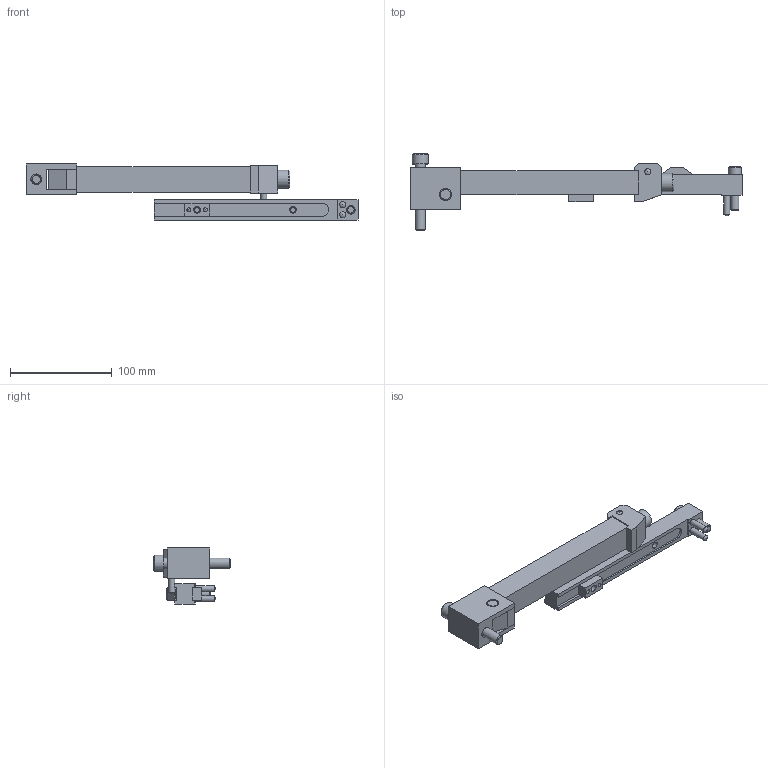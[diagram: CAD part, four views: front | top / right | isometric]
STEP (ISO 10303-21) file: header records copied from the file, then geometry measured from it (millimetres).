
FILE_DESCRIPTION( ( 'STEP AP214' ), '1' );
FILE_NAME( 'p:/temp/worker_4/temp/exporttempdir_3264_257_t73bB/format_0/BOX200FIX.stp', '2021-02-11T19:30:41', ( 'License CC BY-ND 4.0' ), ( 'CADENAS' ), ' ', 'PARTsolutions', ' ' );
FILE_SCHEMA( ( 'AUTOMOTIVE_DESIGN { 1 0 10303 214 1 1 1 1 }' ) );
Length unit declared in the file: millimetre
Products named in the file (17): BOX200FIX; _ZH90/2_head; _ZH90/2_screw1; _ZH90/2_hand; _ZH90/2_screw2; _ZH90/2_he; _ZH90/2_screw3; _ZH90/2_stift1; _ZH90/2_stift2; _ZH90/03_body; _M8-5; _ST2; _ZH90/03_foot3; _M6-3; _M6-4; _ZH90/03_foot4; _ST1
Assembly tree (18 placements, depth 2):
  BOX200FIX
    _ZH90/2_head
    _ZH90/2_screw1
    _ZH90/2_hand
    _ZH90/2_screw2
    _ZH90/2_he
    _ZH90/2_screw3
    _ZH90/2_stift1
    _ZH90/2_stift2
    _ZH90/03_body
    _M8-5
    _ST2  x2
    _ZH90/03_foot3
    _M6-3
    _M6-4
    _ZH90/03_foot4
    _ST1  x2
Bounding box: 326 x 75 x 55 mm (x, y, z)
Volume: 258027.3 mm3; surface area: 79217.7 mm2
Topology: 18 solids, 18 shells, 195 faces, 460 edges, 301 vertices
Faces by surface type: plane 128, cylinder 39, cone 18, sphere 10
Full cylindrical faces by diameter (mm): 4 x6, 4.134 x1, 5 x1, 6 x8, 6.6 x4, 8 x1, 8.4 x1, 10 x2, 10.106 x1, 10.5 x1, 11 x2, 12 x5, 13 x2, 16 x1, 18 x1
Entity records: 6862 total; most frequent: CARTESIAN_POINT 916, DIRECTION 872, ORIENTED_EDGE 730, EDGE_CURVE 365, AXIS2_PLACEMENT_3D 302, EDGE_LOOP 288, VERTEX_POINT 278, LINE 268
